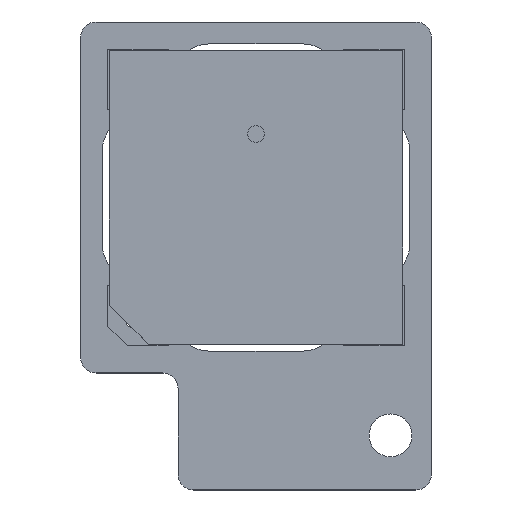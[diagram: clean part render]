
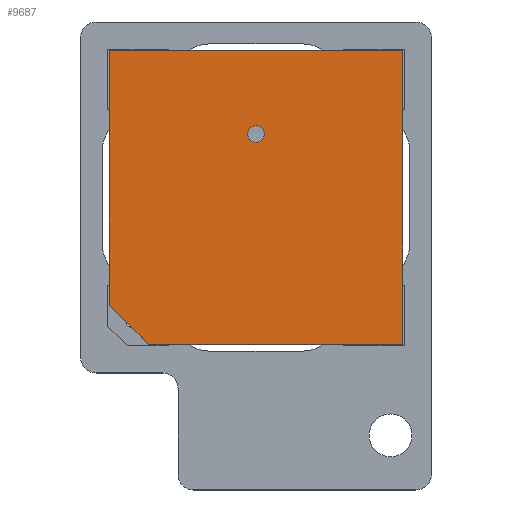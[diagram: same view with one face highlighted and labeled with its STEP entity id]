
A CAD part, top view. The second image highlights one B-rep face of the part: STEP entity #9687.
In plain terms, the highlighted planar face has unit normal (0, 0, 1).
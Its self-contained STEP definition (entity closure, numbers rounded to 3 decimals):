
#24 = DIRECTION ( 'NONE',  ( 0., 1., 0. ) ) ;
#88 = VECTOR ( 'NONE', #11834, 1000. ) ;
#106 = DIRECTION ( 'NONE',  ( 1., 0., 0. ) ) ;
#304 = EDGE_CURVE ( 'NONE', #6756, #10036, #10129, .T. ) ;
#728 = FACE_OUTER_BOUND ( 'NONE', #6603, .T. ) ;
#767 = VERTEX_POINT ( 'NONE', #3936 ) ;
#1052 = CARTESIAN_POINT ( 'NONE',  ( -20.012, 22.139, 1.634 ) ) ;
#1413 = EDGE_CURVE ( 'NONE', #8500, #9664, #10947, .T. ) ;
#1549 = VECTOR ( 'NONE', #11011, 1000. ) ;
#2032 = DIRECTION ( 'NONE',  ( 0., 0., 1. ) ) ;
#2269 = CIRCLE ( 'NONE', #8547, 0.425 ) ;
#2461 = CARTESIAN_POINT ( 'NONE',  ( -20.012, 9.089, 1.634 ) ) ;
#2691 = EDGE_CURVE ( 'NONE', #12210, #12210, #2269, .T. ) ;
#3031 = ORIENTED_EDGE ( 'NONE', *, *, #4888, .T. ) ;
#3071 = CARTESIAN_POINT ( 'NONE',  ( 0., 0., 1.634 ) ) ;
#3214 = LINE ( 'NONE', #4892, #88 ) ;
#3717 = CARTESIAN_POINT ( 'NONE',  ( -20.012, 22.139, 1.634 ) ) ;
#3936 = CARTESIAN_POINT ( 'NONE',  ( -18.012, 7.089, 1.634 ) ) ;
#4793 = CARTESIAN_POINT ( 'NONE',  ( -20.012, 9.089, 1.634 ) ) ;
#4888 = EDGE_CURVE ( 'NONE', #9664, #767, #10264, .T. ) ;
#4892 = CARTESIAN_POINT ( 'NONE',  ( -18.012, 7.089, 1.634 ) ) ;
#5598 = VECTOR ( 'NONE', #10329, 1000. ) ;
#6290 = ORIENTED_EDGE ( 'NONE', *, *, #9414, .T. ) ;
#6292 = VECTOR ( 'NONE', #24, 1000. ) ;
#6309 = DIRECTION ( 'NONE',  ( 0., 0., 1. ) ) ;
#6317 = DIRECTION ( 'NONE',  ( 1., 0., 0. ) ) ;
#6603 = EDGE_LOOP ( 'NONE', ( #10875, #6290, #10177, #3031, #9117 ) ) ;
#6756 = VERTEX_POINT ( 'NONE', #8292 ) ;
#7054 = AXIS2_PLACEMENT_3D ( 'NONE', #3071, #2032, #6317 ) ;
#7069 = DIRECTION ( 'NONE',  ( -1., 0., 0. ) ) ;
#7148 = CARTESIAN_POINT ( 'NONE',  ( -4.962, 22.139, 1.634 ) ) ;
#7173 = CARTESIAN_POINT ( 'NONE',  ( -20.012, 22.139, 1.634 ) ) ;
#7197 = LINE ( 'NONE', #1052, #11472 ) ;
#8001 = CARTESIAN_POINT ( 'NONE',  ( -4.962, 22.139, 1.634 ) ) ;
#8041 = PLANE ( 'NONE',  #7054 ) ;
#8075 = CARTESIAN_POINT ( 'NONE',  ( -12.487, 17.864, 1.634 ) ) ;
#8292 = CARTESIAN_POINT ( 'NONE',  ( -4.962, 7.089, 1.634 ) ) ;
#8500 = VERTEX_POINT ( 'NONE', #3717 ) ;
#8547 = AXIS2_PLACEMENT_3D ( 'NONE', #8075, #6309, #106 ) ;
#9117 = ORIENTED_EDGE ( 'NONE', *, *, #11738, .T. ) ;
#9414 = EDGE_CURVE ( 'NONE', #10036, #8500, #7197, .T. ) ;
#9664 = VERTEX_POINT ( 'NONE', #4793 ) ;
#9687 = ADVANCED_FACE ( 'NONE', ( #9714, #728 ), #8041, .T. ) ;
#9714 = FACE_BOUND ( 'NONE', #12578, .T. ) ;
#10036 = VERTEX_POINT ( 'NONE', #7148 ) ;
#10129 = LINE ( 'NONE', #8001, #6292 ) ;
#10177 = ORIENTED_EDGE ( 'NONE', *, *, #1413, .T. ) ;
#10220 = ORIENTED_EDGE ( 'NONE', *, *, #2691, .F. ) ;
#10264 = LINE ( 'NONE', #2461, #5598 ) ;
#10329 = DIRECTION ( 'NONE',  ( 0.707, -0.707, 0. ) ) ;
#10875 = ORIENTED_EDGE ( 'NONE', *, *, #304, .T. ) ;
#10947 = LINE ( 'NONE', #7173, #1549 ) ;
#11011 = DIRECTION ( 'NONE',  ( 0., -1., 0. ) ) ;
#11472 = VECTOR ( 'NONE', #7069, 1000. ) ;
#11738 = EDGE_CURVE ( 'NONE', #767, #6756, #3214, .T. ) ;
#11834 = DIRECTION ( 'NONE',  ( 1., 0., 0. ) ) ;
#12145 = CARTESIAN_POINT ( 'NONE',  ( -12.062, 17.864, 1.634 ) ) ;
#12210 = VERTEX_POINT ( 'NONE', #12145 ) ;
#12578 = EDGE_LOOP ( 'NONE', ( #10220 ) ) ;
